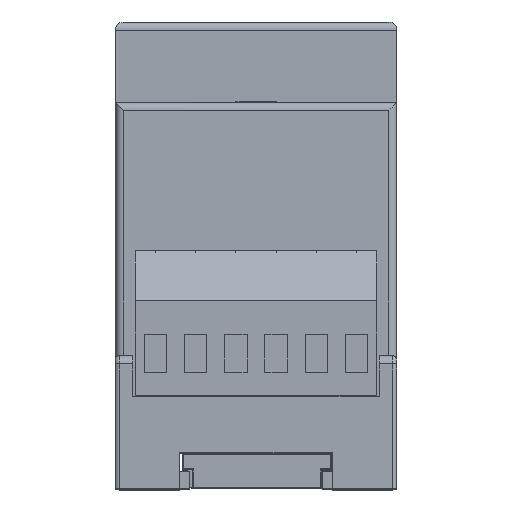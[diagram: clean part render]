
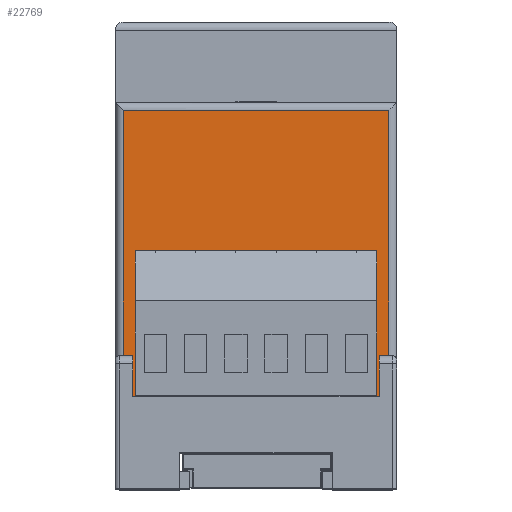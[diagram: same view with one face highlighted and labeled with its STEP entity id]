
A CAD part, top view. The second image highlights one B-rep face of the part: STEP entity #22769.
In plain terms, the highlighted planar face has unit normal (0, 0, 1).
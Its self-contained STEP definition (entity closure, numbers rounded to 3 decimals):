
#438 = VECTOR ( 'NONE', #3278, 1000. ) ;
#998 = CARTESIAN_POINT ( 'NONE',  ( 1., 30.5, 0. ) ) ;
#1075 = DIRECTION ( 'NONE',  ( 0., 0., -1. ) ) ;
#1455 = CARTESIAN_POINT ( 'NONE',  ( 3., -5., 0. ) ) ;
#3278 = DIRECTION ( 'NONE',  ( 1., 0., 0. ) ) ;
#3512 = LINE ( 'NONE', #31722, #21330 ) ;
#3545 = EDGE_CURVE ( 'NONE', #25496, #44988, #18419, .T. ) ;
#5158 = VECTOR ( 'NONE', #34613, 1000. ) ;
#7168 = VERTEX_POINT ( 'NONE', #14286 ) ;
#7212 = EDGE_LOOP ( 'NONE', ( #23936, #22499, #8646, #9972, #52826, #27050, #42939, #34366, #19636, #30471 ) ) ;
#7301 = DIRECTION ( 'NONE',  ( 0.707, -0.707, 0. ) ) ;
#8646 = ORIENTED_EDGE ( 'NONE', *, *, #31916, .F. ) ;
#9324 = VERTEX_POINT ( 'NONE', #37194 ) ;
#9726 = CARTESIAN_POINT ( 'NONE',  ( 34., 31.5, 0. ) ) ;
#9758 = DIRECTION ( 'NONE',  ( 0.707, 0.707, 0. ) ) ;
#9972 = ORIENTED_EDGE ( 'NONE', *, *, #21457, .T. ) ;
#10123 = CARTESIAN_POINT ( 'NONE',  ( 1.5, -9., 0. ) ) ;
#10135 = CARTESIAN_POINT ( 'NONE',  ( 0., 31.5, 0. ) ) ;
#10400 = VECTOR ( 'NONE', #41658, 1000. ) ;
#12058 = CARTESIAN_POINT ( 'NONE',  ( 34., -9., 0. ) ) ;
#12388 = EDGE_CURVE ( 'NONE', #9324, #41161, #29251, .T. ) ;
#13053 = LINE ( 'NONE', #28737, #438 ) ;
#13710 = LINE ( 'NONE', #15358, #10400 ) ;
#14286 = CARTESIAN_POINT ( 'NONE',  ( 1., -9., 0. ) ) ;
#14624 = DIRECTION ( 'NONE',  ( 1., 0., 0. ) ) ;
#15358 = CARTESIAN_POINT ( 'NONE',  ( 1.5, -5., 0. ) ) ;
#18419 = LINE ( 'NONE', #9726, #5158 ) ;
#18627 = CARTESIAN_POINT ( 'NONE',  ( 1.5, -6.5, 0. ) ) ;
#18836 = LINE ( 'NONE', #39101, #46493 ) ;
#19024 = DIRECTION ( 'NONE',  ( 0., -1., 0. ) ) ;
#19636 = ORIENTED_EDGE ( 'NONE', *, *, #3545, .T. ) ;
#21330 = VECTOR ( 'NONE', #14624, 1000. ) ;
#21457 = EDGE_CURVE ( 'NONE', #43919, #34859, #23394, .T. ) ;
#22499 = ORIENTED_EDGE ( 'NONE', *, *, #51089, .T. ) ;
#22769 = ADVANCED_FACE ( 'NONE', ( #28459 ), #26188, .F. ) ;
#23394 = LINE ( 'NONE', #18627, #29355 ) ;
#23936 = ORIENTED_EDGE ( 'NONE', *, *, #43354, .T. ) ;
#25187 = CARTESIAN_POINT ( 'NONE',  ( 0., 30.5, 0. ) ) ;
#25496 = VERTEX_POINT ( 'NONE', #12058 ) ;
#26003 = CARTESIAN_POINT ( 'NONE',  ( 1., 31.5, 0. ) ) ;
#26188 = PLANE ( 'NONE',  #29173 ) ;
#27050 = ORIENTED_EDGE ( 'NONE', *, *, #12388, .T. ) ;
#28459 = FACE_OUTER_BOUND ( 'NONE', #7212, .T. ) ;
#28737 = CARTESIAN_POINT ( 'NONE',  ( 35., -9., 0. ) ) ;
#29173 = AXIS2_PLACEMENT_3D ( 'NONE', #10135, #1075, #35004 ) ;
#29251 = LINE ( 'NONE', #49288, #39757 ) ;
#29355 = VECTOR ( 'NONE', #9758, 1000. ) ;
#30471 = ORIENTED_EDGE ( 'NONE', *, *, #50200, .T. ) ;
#30748 = VERTEX_POINT ( 'NONE', #31137 ) ;
#31137 = CARTESIAN_POINT ( 'NONE',  ( 33.5, -9., 0. ) ) ;
#31722 = CARTESIAN_POINT ( 'NONE',  ( 1.5, -9., 0. ) ) ;
#31916 = EDGE_CURVE ( 'NONE', #43919, #49840, #49125, .T. ) ;
#32169 = LINE ( 'NONE', #26003, #53804 ) ;
#32974 = CARTESIAN_POINT ( 'NONE',  ( 34., 30.5, 0. ) ) ;
#34210 = DIRECTION ( 'NONE',  ( -1., 0., 0. ) ) ;
#34288 = DIRECTION ( 'NONE',  ( 0., -1., 0. ) ) ;
#34366 = ORIENTED_EDGE ( 'NONE', *, *, #46662, .T. ) ;
#34613 = DIRECTION ( 'NONE',  ( 0., 1., 0. ) ) ;
#34662 = EDGE_CURVE ( 'NONE', #41161, #30748, #18836, .T. ) ;
#34859 = VERTEX_POINT ( 'NONE', #1455 ) ;
#35004 = DIRECTION ( 'NONE',  ( -1., 0., 0. ) ) ;
#37194 = CARTESIAN_POINT ( 'NONE',  ( 32., -5., 0. ) ) ;
#39101 = CARTESIAN_POINT ( 'NONE',  ( 33.5, -5., 0. ) ) ;
#39288 = DIRECTION ( 'NONE',  ( 0., -1., 0. ) ) ;
#39757 = VECTOR ( 'NONE', #7301, 1000. ) ;
#41161 = VERTEX_POINT ( 'NONE', #50594 ) ;
#41255 = VECTOR ( 'NONE', #19024, 1000. ) ;
#41658 = DIRECTION ( 'NONE',  ( -1., 0., 0. ) ) ;
#42939 = ORIENTED_EDGE ( 'NONE', *, *, #34662, .T. ) ;
#43354 = EDGE_CURVE ( 'NONE', #50370, #7168, #32169, .T. ) ;
#43919 = VERTEX_POINT ( 'NONE', #50536 ) ;
#44988 = VERTEX_POINT ( 'NONE', #32974 ) ;
#46200 = VECTOR ( 'NONE', #34210, 1000. ) ;
#46493 = VECTOR ( 'NONE', #39288, 1000. ) ;
#46662 = EDGE_CURVE ( 'NONE', #30748, #25496, #13053, .T. ) ;
#49125 = LINE ( 'NONE', #52792, #41255 ) ;
#49288 = CARTESIAN_POINT ( 'NONE',  ( 32., -5., 0. ) ) ;
#49840 = VERTEX_POINT ( 'NONE', #10123 ) ;
#50200 = EDGE_CURVE ( 'NONE', #44988, #50370, #53365, .T. ) ;
#50370 = VERTEX_POINT ( 'NONE', #998 ) ;
#50536 = CARTESIAN_POINT ( 'NONE',  ( 1.5, -6.5, 0. ) ) ;
#50594 = CARTESIAN_POINT ( 'NONE',  ( 33.5, -6.5, 0. ) ) ;
#51089 = EDGE_CURVE ( 'NONE', #7168, #49840, #3512, .T. ) ;
#52792 = CARTESIAN_POINT ( 'NONE',  ( 1.5, -5., 0. ) ) ;
#52826 = ORIENTED_EDGE ( 'NONE', *, *, #54314, .F. ) ;
#53365 = LINE ( 'NONE', #25187, #46200 ) ;
#53804 = VECTOR ( 'NONE', #34288, 1000. ) ;
#54314 = EDGE_CURVE ( 'NONE', #9324, #34859, #13710, .T. ) ;
